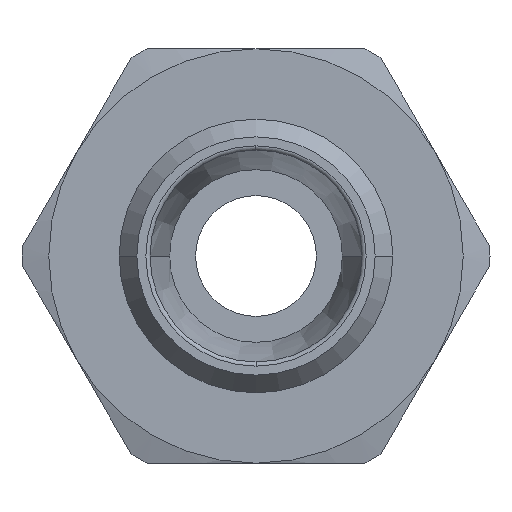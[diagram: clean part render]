
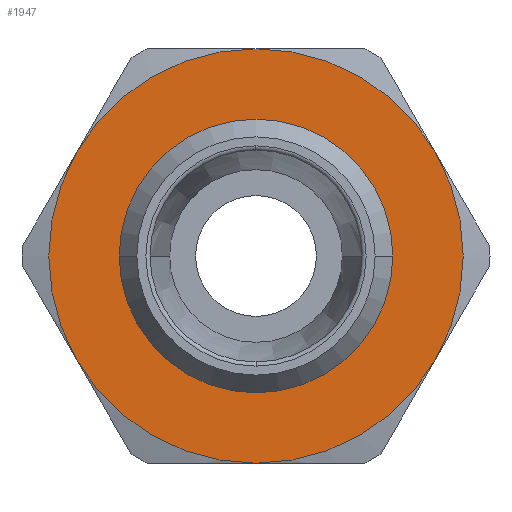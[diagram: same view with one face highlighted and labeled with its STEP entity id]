
A CAD part, left-side view. The second image highlights one B-rep face of the part: STEP entity #1947.
In plain terms, the highlighted planar face has unit normal (-1, 0, 0) as drawn and (0, 0, 1) by its records, which use the part's own axes.
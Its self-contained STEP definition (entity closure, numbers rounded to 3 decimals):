
#857=CARTESIAN_POINT('',(-7.8,0.,3.0));
#858=VERTEX_POINT('',#857);
#884=CARTESIAN_POINT('',(7.8,0.,3.0));
#885=VERTEX_POINT('',#884);
#893=CARTESIAN_POINT('',(0.,0.0,3.0));
#894=DIRECTION('',(0.0,0.0,1.0));
#895=DIRECTION('',(-1.0,0.0,0.0));
#896=AXIS2_PLACEMENT_3D('',#893,#894,#895);
#897=CIRCLE('',#896,7.8);
#898=EDGE_CURVE('',#885,#858,#897,.T.);
#1827=CARTESIAN_POINT('',(0.,-7.8,3.));
#1828=VERTEX_POINT('',#1827);
#1829=CARTESIAN_POINT('',(0.,0.0,3.0));
#1830=DIRECTION('',(0.0,0.0,1.0));
#1831=DIRECTION('',(-1.0,0.0,0.0));
#1832=AXIS2_PLACEMENT_3D('',#1829,#1830,#1831);
#1833=CIRCLE('',#1832,7.8);
#1834=EDGE_CURVE('',#858,#1828,#1833,.T.);
#1836=CARTESIAN_POINT('',(0.,0.0,3.0));
#1837=DIRECTION('',(0.0,0.0,1.0));
#1838=DIRECTION('',(-1.0,0.0,0.0));
#1839=AXIS2_PLACEMENT_3D('',#1836,#1837,#1838);
#1840=CIRCLE('',#1839,7.8);
#1841=EDGE_CURVE('',#1828,#885,#1840,.T.);
#1881=CARTESIAN_POINT('',(0.,0.,3.0));
#1882=DIRECTION('',(0.0,0.0,1.0));
#1883=DIRECTION('',(1.0,0.0,0.0));
#1884=AXIS2_PLACEMENT_3D('',#1881,#1882,#1883);
#1885=PLANE('',#1884);
#1886=CARTESIAN_POINT('',(6.,-10.392,3.));
#1887=VERTEX_POINT('',#1886);
#1888=CARTESIAN_POINT('',(12.,0.0,3.));
#1889=VERTEX_POINT('',#1888);
#1890=CARTESIAN_POINT('',(0.,0.0,3.0));
#1891=DIRECTION('',(0.0,0.0,1.0));
#1892=DIRECTION('',(1.0,0.0,0.0));
#1893=AXIS2_PLACEMENT_3D('',#1890,#1891,#1892);
#1894=CIRCLE('',#1893,12.);
#1895=EDGE_CURVE('',#1887,#1889,#1894,.T.);
#1896=ORIENTED_EDGE('',*,*,#1895,.T.);
#1897=CARTESIAN_POINT('',(6.,10.392,3.));
#1898=VERTEX_POINT('',#1897);
#1899=CARTESIAN_POINT('',(0.,0.0,3.0));
#1900=DIRECTION('',(0.0,0.0,1.0));
#1901=DIRECTION('',(1.0,0.0,0.0));
#1902=AXIS2_PLACEMENT_3D('',#1899,#1900,#1901);
#1903=CIRCLE('',#1902,12.);
#1904=EDGE_CURVE('',#1889,#1898,#1903,.T.);
#1905=ORIENTED_EDGE('',*,*,#1904,.T.);
#1906=CARTESIAN_POINT('',(-6.,10.392,3.));
#1907=VERTEX_POINT('',#1906);
#1908=CARTESIAN_POINT('',(0.,0.0,3.0));
#1909=DIRECTION('',(0.0,0.0,1.0));
#1910=DIRECTION('',(1.0,0.0,0.0));
#1911=AXIS2_PLACEMENT_3D('',#1908,#1909,#1910);
#1912=CIRCLE('',#1911,12.);
#1913=EDGE_CURVE('',#1898,#1907,#1912,.T.);
#1914=ORIENTED_EDGE('',*,*,#1913,.T.);
#1915=CARTESIAN_POINT('',(-12.0,0.,3.));
#1916=VERTEX_POINT('',#1915);
#1917=CARTESIAN_POINT('',(0.,0.0,3.0));
#1918=DIRECTION('',(0.0,0.0,1.0));
#1919=DIRECTION('',(1.0,0.0,0.0));
#1920=AXIS2_PLACEMENT_3D('',#1917,#1918,#1919);
#1921=CIRCLE('',#1920,12.);
#1922=EDGE_CURVE('',#1907,#1916,#1921,.T.);
#1923=ORIENTED_EDGE('',*,*,#1922,.T.);
#1924=CARTESIAN_POINT('',(-6.,-10.392,3.));
#1925=VERTEX_POINT('',#1924);
#1926=CARTESIAN_POINT('',(0.,0.0,3.0));
#1927=DIRECTION('',(0.0,0.0,1.0));
#1928=DIRECTION('',(1.0,0.0,0.0));
#1929=AXIS2_PLACEMENT_3D('',#1926,#1927,#1928);
#1930=CIRCLE('',#1929,12.);
#1931=EDGE_CURVE('',#1916,#1925,#1930,.T.);
#1932=ORIENTED_EDGE('',*,*,#1931,.T.);
#1933=CARTESIAN_POINT('',(0.,0.0,3.0));
#1934=DIRECTION('',(0.0,0.0,1.0));
#1935=DIRECTION('',(1.0,0.0,0.0));
#1936=AXIS2_PLACEMENT_3D('',#1933,#1934,#1935);
#1937=CIRCLE('',#1936,12.);
#1938=EDGE_CURVE('',#1925,#1887,#1937,.T.);
#1939=ORIENTED_EDGE('',*,*,#1938,.T.);
#1940=EDGE_LOOP('',(#1896,#1905,#1914,#1923,#1932,#1939));
#1941=FACE_OUTER_BOUND('',#1940,.T.);
#1942=ORIENTED_EDGE('',*,*,#1841,.F.);
#1943=ORIENTED_EDGE('',*,*,#1834,.F.);
#1944=ORIENTED_EDGE('',*,*,#898,.F.);
#1945=EDGE_LOOP('',(#1942,#1943,#1944));
#1946=FACE_BOUND('',#1945,.T.);
#1947=ADVANCED_FACE('',(#1941,#1946),#1885,.T.);
